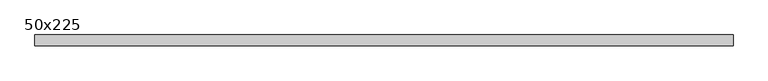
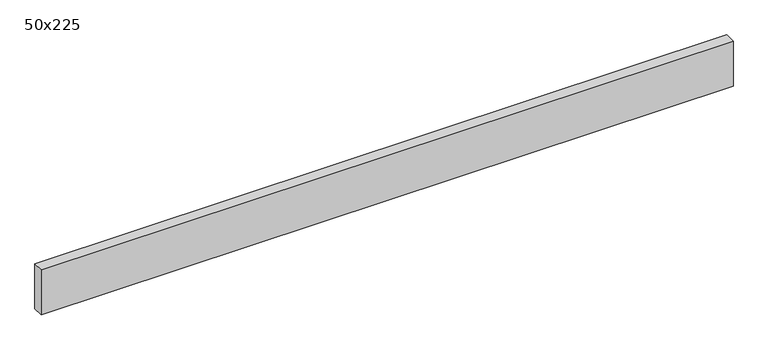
"""IFC4 building model written with IfcOpenShell, lengths in millimetres: beam geometry, Graded Timber : 50x225."""

import ifcopenshell
import ifcopenshell.guid

model = None  # the IFC model being written
_history = None  # IfcOwnerHistory: only IFC2X3 demands one
_inside = {}  # id of a spatial element -> (the spatial element, [elements in it])
_under = {}  # id of a project, library or spatial element -> (it, [spatial elements below it])
_declared = {}  # id of a project -> (the project, [libraries it declares])
_typed = {}  # id of a type object -> (the type object, [elements of that type])
_made_of = {}  # id of a material, layer set ... -> (it, [elements and type objects made of it])


def new_model(schema):
    """Start an empty IFC model of exactly this schema.

    Asked for "IFC4X3", IfcOpenShell would pick the latest addendum, in which some entities
    have other attributes; the version numbers below select the first issue.
    IFC2X3 requires an IfcOwnerHistory on every rooted entity: one is made here for all.
    """
    global model, _history
    if schema == "IFC4X3":
        model = ifcopenshell.file(schema_version=(4, 3, 0, 0))
    else:
        model = ifcopenshell.file(schema=schema)
    _inside.clear()
    _under.clear()
    _declared.clear()
    _typed.clear()
    _made_of.clear()
    _history = None
    if model.schema == "IFC2X3":
        org = make("IfcOrganization", Name="unknown")
        user = make(
            "IfcPersonAndOrganization",
            ThePerson=make("IfcPerson", FamilyName="unknown"),
            TheOrganization=org,
        )
        app = make(
            "IfcApplication",
            ApplicationDeveloper=org,
            Version="unknown",
            ApplicationFullName="unknown",
            ApplicationIdentifier="unknown",
        )
        _history = make(
            "IfcOwnerHistory",
            OwningUser=user,
            OwningApplication=app,
            ChangeAction="ADDED",
            CreationDate=0,
        )
    return model


def make(cls, **values):
    """One entity of the class cls with the attributes given. An attribute that is None is left unset."""
    return model.create_entity(
        cls, **{name: value for name, value in values.items() if value is not None}
    )


def rooted(cls, **values):
    """An entity with a GlobalId (a new one), such as an element, a storey or a relation."""
    return make(cls, GlobalId=ifcopenshell.guid.new(), OwnerHistory=_history, **values)


def si_unit(unit_type, name, prefix=None):
    """IfcSIUnit, for example si_unit("LENGTHUNIT", "METRE", prefix="MILLI")."""
    return make("IfcSIUnit", UnitType=unit_type, Prefix=prefix, Name=name)


def assignment(units):
    """IfcUnitAssignment: the units of a project."""
    return None if units is None else make("IfcUnitAssignment", Units=units)


def point(xyz):
    """IfcCartesianPoint."""
    return None if xyz is None else make("IfcCartesianPoint", Coordinates=xyz)


def direction(xyz):
    """IfcDirection."""
    return None if xyz is None else make("IfcDirection", DirectionRatios=xyz)


def frame(location, z_axis=None, x_axis=None):
    """IfcAxis2Placement3D, a coordinate frame: its origin and axes. An axis left out is left unset."""
    return make(
        "IfcAxis2Placement3D",
        Location=point(location),
        Axis=direction(z_axis),
        RefDirection=direction(x_axis),
    )


def origin():
    """The frame at (0, 0, 0) with its axes left unset."""
    return frame((0.0, 0.0, 0.0))


def place(relative_to, where):
    """IfcLocalPlacement: puts the frame where relative to a parent placement (None: the world)."""
    return make(
        "IfcLocalPlacement", PlacementRelTo=relative_to, RelativePlacement=where
    )


def context(
    kind, dimensions, precision=None, world=None, true_north=None, identifier=None
):
    """IfcGeometricRepresentationContext, for example the 3D "Model" context."""
    return make(
        "IfcGeometricRepresentationContext",
        ContextIdentifier=identifier,
        ContextType=kind,
        CoordinateSpaceDimension=dimensions,
        Precision=precision,
        WorldCoordinateSystem=world,
        TrueNorth=true_north,
    )


def project(units=None, contexts=None):
    """IfcProject with its units and contexts."""
    return rooted(
        "IfcProject",
        Name="project",
        RepresentationContexts=contexts,
        UnitsInContext=assignment(units),
    )


def spatial(cls, under=None, at=None, **own):
    """A site, building, storey or space (cls), placed at a placement, below another one or the project."""
    s = rooted(cls, ObjectPlacement=at, **own)
    if under is not None:
        _under.setdefault(under.id(), (under, []))[1].append(s)
    return s


def polyline(points):
    """IfcPolyline through the points."""
    return make("IfcPolyline", Points=[point(p) for p in points])


def outline(outer, holes=None, kind="AREA"):
    """IfcArbitraryClosedProfileDef: a profile drawn as a closed curve; with holes, ...WithVoids."""
    if holes is None:
        return make("IfcArbitraryClosedProfileDef", ProfileType=kind, OuterCurve=outer)
    return make(
        "IfcArbitraryProfileDefWithVoids",
        ProfileType=kind,
        OuterCurve=outer,
        InnerCurves=holes,
    )


def extrude(swept, where, along, depth):
    """IfcExtrudedAreaSolid: the profile swept, set in the frame where, extruded along a direction by depth."""
    return make(
        "IfcExtrudedAreaSolid",
        SweptArea=swept,
        Position=where,
        ExtrudedDirection=direction(along),
        Depth=depth,
    )


def shape(context_of_items, identifier, shape_type, items):
    """IfcShapeRepresentation: the items that make up one representation, for example the "Body"."""
    return make(
        "IfcShapeRepresentation",
        ContextOfItems=context_of_items,
        RepresentationIdentifier=identifier,
        RepresentationType=shape_type,
        Items=items,
    )


def source(mapping_origin, context_of_items, identifier, shape_type, items):
    """IfcRepresentationMap: a shape defined once, which mapped items show again and again."""
    return make(
        "IfcRepresentationMap",
        MappingOrigin=mapping_origin,
        MappedRepresentation=shape(context_of_items, identifier, shape_type, items),
    )


def transform(
    local_origin,
    x_axis=None,
    y_axis=None,
    z_axis=None,
    scale=None,
    scale2=None,
    scale3=None,
    uniform=True,
):
    """IfcCartesianTransformationOperator3D, or its non-uniform kind. x_axis, y_axis, z_axis: its Axis1, 2, 3."""
    if uniform:
        return make(
            "IfcCartesianTransformationOperator3D",
            Axis1=direction(x_axis),
            Axis2=direction(y_axis),
            LocalOrigin=point(local_origin),
            Scale=scale,
            Axis3=direction(z_axis),
        )
    return make(
        "IfcCartesianTransformationOperator3DnonUniform",
        Axis1=direction(x_axis),
        Axis2=direction(y_axis),
        LocalOrigin=point(local_origin),
        Scale=scale,
        Axis3=direction(z_axis),
        Scale2=scale2,
        Scale3=scale3,
    )


def mapped(mapping_source, mapping_target):
    """IfcMappedItem: shows the shape of a source again, moved by a transform."""
    return make(
        "IfcMappedItem", MappingSource=mapping_source, MappingTarget=mapping_target
    )


def made_of(thing, what):
    """Note that an element or type object is made of a material, layer set ...; save() writes the relation."""
    if what is not None:
        _made_of.setdefault(what.id(), (what, []))[1].append(thing)
    return thing


def element(
    cls,
    number,
    at=None,
    inside=None,
    cuts=None,
    type_object=None,
    material=None,
    context=None,
    identifier="Body",
    shape_type=None,
    held_by="IfcProductDefinitionShape",
    body=None,
    shapes=None,
    **own,
):
    """One element of the class cls, such as IfcWall. Its Tag is "e" and its number.

    at: its placement. inside: the storey or other place that contains it. cuts: it is an
    opening in that element (IfcRelVoidsElement). A single representation is given by context,
    identifier, shape_type and body (its items); several are given by shapes. held_by: the class
    of the entity that holds the representations. save() writes the other relations.
    """
    e = rooted(cls, Tag="e%d" % number, ObjectPlacement=at, **own)
    if body is not None:
        shapes = [shape(context, identifier, shape_type, body)]
    if shapes is not None:
        e.Representation = make(held_by, Representations=shapes)
    if inside is not None:
        _inside.setdefault(inside.id(), (inside, []))[1].append(e)
    if cuts is not None:
        rooted(
            "IfcRelVoidsElement", RelatingBuildingElement=cuts, RelatedOpeningElement=e
        )
    if type_object is not None:
        _typed.setdefault(type_object.id(), (type_object, []))[1].append(e)
    return made_of(e, material)


def aggregate(whole, parts):
    """IfcRelAggregates: a whole, such as a stair, and the parts it consists of."""
    return rooted("IfcRelAggregates", RelatingObject=whole, RelatedObjects=parts)


def save(model, path):
    """Write the relations noted so far, then the file.

    IfcRelAggregates (storeys below a building ...), IfcRelContainedInSpatialStructure (elements
    in a storey), IfcRelDefinesByType, IfcRelAssociatesMaterial and IfcRelDeclares: one each for
    every whole, place, type object, material and project.
    """
    for whole, parts in _under.values():
        aggregate(whole, parts)
    for where, things in _inside.values():
        rooted(
            "IfcRelContainedInSpatialStructure",
            RelatedElements=things,
            RelatingStructure=where,
        )
    for kind, things in _typed.values():
        rooted("IfcRelDefinesByType", RelatedObjects=things, RelatingType=kind)
    for what, things in _made_of.values():
        rooted("IfcRelAssociatesMaterial", RelatedObjects=things, RelatingMaterial=what)
    for by, libraries in _declared.values():
        rooted("IfcRelDeclares", RelatingContext=by, RelatedDefinitions=libraries)
    model.write(path)


def beam_50x225_0351b97d(model_context):
    return source(origin(), model_context, "Body", "SweptSolid", [
        extrude(outline(polyline([(1590.0, 25.0), (1590.0, -25.0), (-1608.4204537, -25.0), (-1608.4204537, 25.0), (1590.0, 25.0)])), frame((0.0, 0.0, -110.0), z_axis=(0.0, 0.0, 1.0), x_axis=(1.0, 0.0, 0.0)), (0.0, 0.0, 1.0), 220.0),
    ])


if __name__ == "__main__":
    model = new_model("IFC4")
    model_context = context("Model", 3, world=origin())
    ifc_project = project(units=[si_unit("LENGTHUNIT", "METRE", prefix="MILLI")], contexts=[model_context])
    site = spatial("IfcSite", under=ifc_project)
    building = spatial("IfcBuilding", under=site)
    placement = place(None, origin())
    beam_50x225_shape = beam_50x225_0351b97d(model_context)
    element("IfcBeam", 1, ObjectType="Graded Timber : 50x225", at=placement, inside=building, context=model_context, shape_type="MappedRepresentation", body=[
        mapped(beam_50x225_shape, transform((0.0, 0.0, 0.0), x_axis=(1.0, 0.0, 0.0), y_axis=(0.0, 1.0, 0.0), z_axis=(0.0, 0.0, 1.0))),
    ])
    save(model, "model.ifc")
